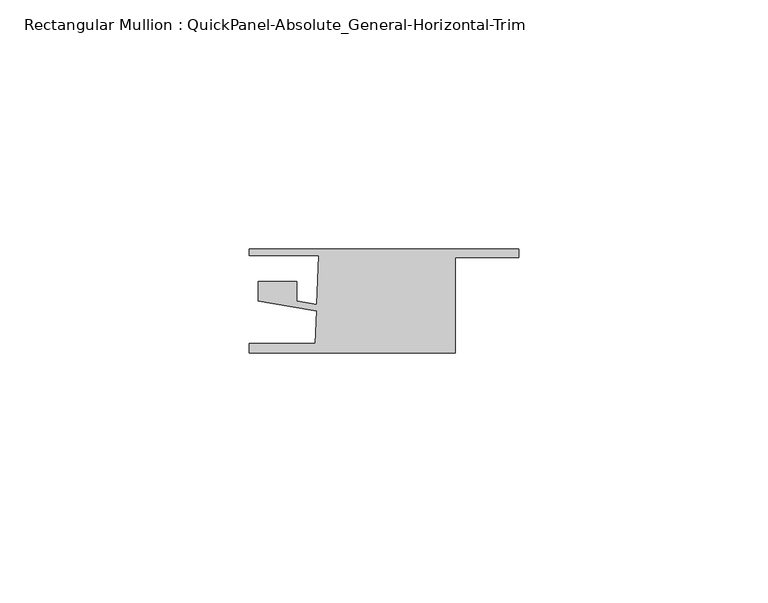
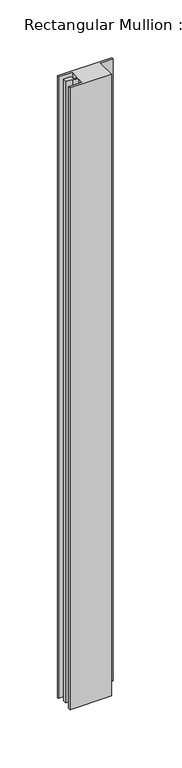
"""IFC4 building model written with IfcOpenShell, lengths in millimetres: member geometry, Rectangular Mullion : QuickPanel-Absolute_General-Horizontal-Trim."""

from ifc_helpers import new_model, si_unit, frame, origin, place, context, project, spatial, polyline, outline, extrude, source, transform, mapped, element, save


def rectangular_mullion_quickpanel_absolute_general_horizontal_ecc8f6d4(model_context):
    return source(origin(), model_context, "Body", "SweptSolid", [
        extrude(outline(polyline([(-53.975, -8.6293878), (-53.975, -6.6935423), (-40.7340873, -6.6935423), (-40.5073021, -0.1992641), (-45.757583, 0.7008023), (-52.1929157, 1.8040245), (-52.1929157, 5.6493034), (-44.4481426, 5.6493034), (-44.4481426, 1.7648465), (-40.4625736, 1.0815922), (-40.1186466, 10.9303752), (-53.975, 10.9303752), (-53.975, 12.1803727), (0.0, 12.1803727), (0.0, 10.4985348), (-12.6805114, 10.4985348), (-12.6805114, -8.6293878), (-53.975, -8.6293878)])), frame((0.0, 0.0, -654.9485599), z_axis=(0.0, 0.0, 1.0), x_axis=(1.0, 0.0, 0.0)), (0.0, 0.0, 1.0), 654.9485599),
    ])


if __name__ == "__main__":
    model = new_model("IFC4")
    model_context = context("Model", 3, world=origin())
    ifc_project = project(units=[si_unit("LENGTHUNIT", "METRE", prefix="MILLI")], contexts=[model_context])
    site = spatial("IfcSite", under=ifc_project)
    building = spatial("IfcBuilding", under=site)
    placement = place(None, origin())
    rectangular_mullion_quickpanel_absolute_general_horizontal_shape = rectangular_mullion_quickpanel_absolute_general_horizontal_ecc8f6d4(model_context)
    element("IfcMember", 1, ObjectType="Rectangular Mullion : QuickPanel-Absolute_General-Horizontal-Trim", at=placement, inside=building, context=model_context, shape_type="MappedRepresentation", body=[
        mapped(rectangular_mullion_quickpanel_absolute_general_horizontal_shape, transform((0.0, 0.0, 0.0), x_axis=(1.0, 0.0, 0.0), y_axis=(0.0, 1.0, 0.0), z_axis=(0.0, 0.0, 1.0))),
    ])
    save(model, "model.ifc")
